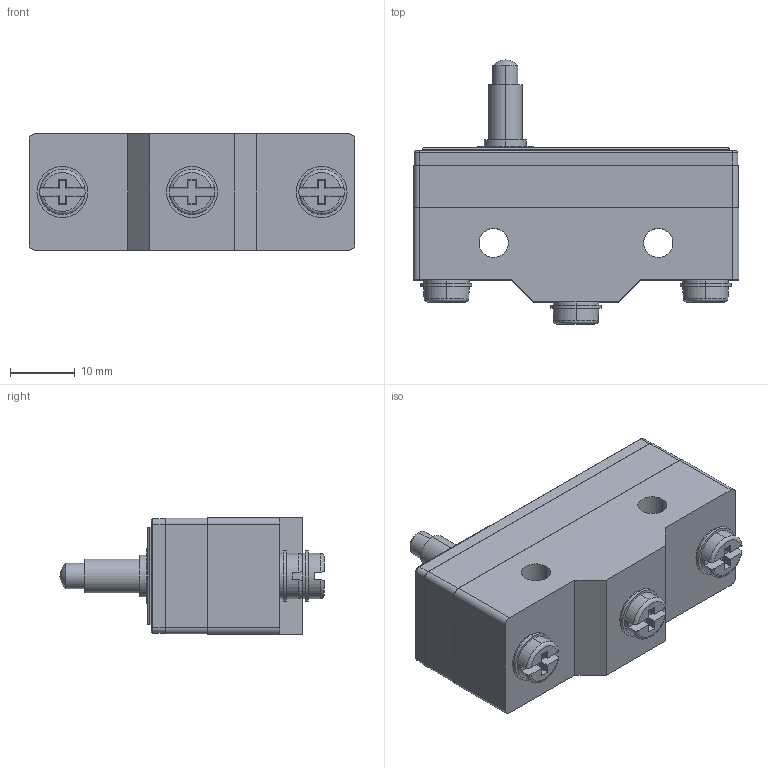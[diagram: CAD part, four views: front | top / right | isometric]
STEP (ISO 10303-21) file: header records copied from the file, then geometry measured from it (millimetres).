
FILE_DESCRIPTION (( 'STEP AP203' ), '1' );
FILE_NAME ('FM1305.STEP', '2018-03-23T13:23:38', ( '' ), ( '' ), 'SwSTEP 2.0', 'SolidWorks 2012', '' );
FILE_SCHEMA (( 'CONFIG_CONTROL_DESIGN' ));
Length unit declared in the file: millimetre
Products named in the file (1): FM1305
Bounding box: 50.3 x 40.75 x 18 mm (x, y, z)
Volume: 19249.6 mm3; surface area: 5800.1 mm2
Topology: 1 solids, 1 shells, 140 faces, 351 edges, 229 vertices
Faces by surface type: plane 74, cylinder 52, torus 13, sphere 1
Entity records: 4297 total; most frequent: CARTESIAN_POINT 824, DIRECTION 726, ORIENTED_EDGE 696, EDGE_CURVE 348, AXIS2_PLACEMENT_3D 265, VERTEX_POINT 227, LINE 196, VECTOR 196
